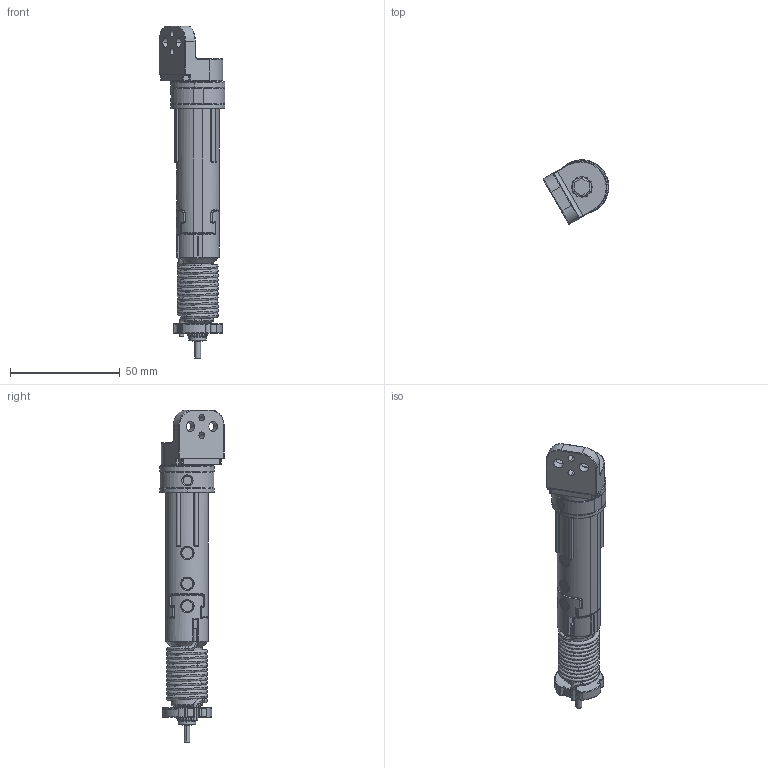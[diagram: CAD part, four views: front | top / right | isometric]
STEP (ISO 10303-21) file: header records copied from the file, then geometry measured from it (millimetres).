
FILE_DESCRIPTION((''),'2;1');
FILE_NAME('B014-10-003_SW0001','2022-12-12T',('PBohnert'),(''),'CREO PARAMETRIC BY PTC INC, 2017020','CREO PARAMETRIC BY PTC INC, 2017020','');
FILE_SCHEMA(('AUTOMOTIVE_DESIGN { 1 0 10303 214 1 1 1 1 }'));
Products named in the file (1): B014-10-003_SW0001
Bounding box: 29.88 x 29.29 x 151.1 mm (x, y, z)
Volume: 30748.7 mm3; surface area: 24863.5 mm2
Topology: 2 solids, 2 shells, 1202 faces, 2878 edges, 1675 vertices
Faces by surface type: cylinder 404, plane 273, bspline 228, torus 198, sphere 49, cone 40, extrusion 6, revolution 4
Entity records: 72302 total; most frequent: CARTESIAN_POINT 26405, ORIENTED_EDGE 5742, DIRECTION 5176, PRESENTATION_STYLE_ASSIGNMENT 4089, STYLED_ITEM 2887, CURVE_STYLE 2885, EDGE_CURVE 2871, AXIS2_PLACEMENT_3D 2080
